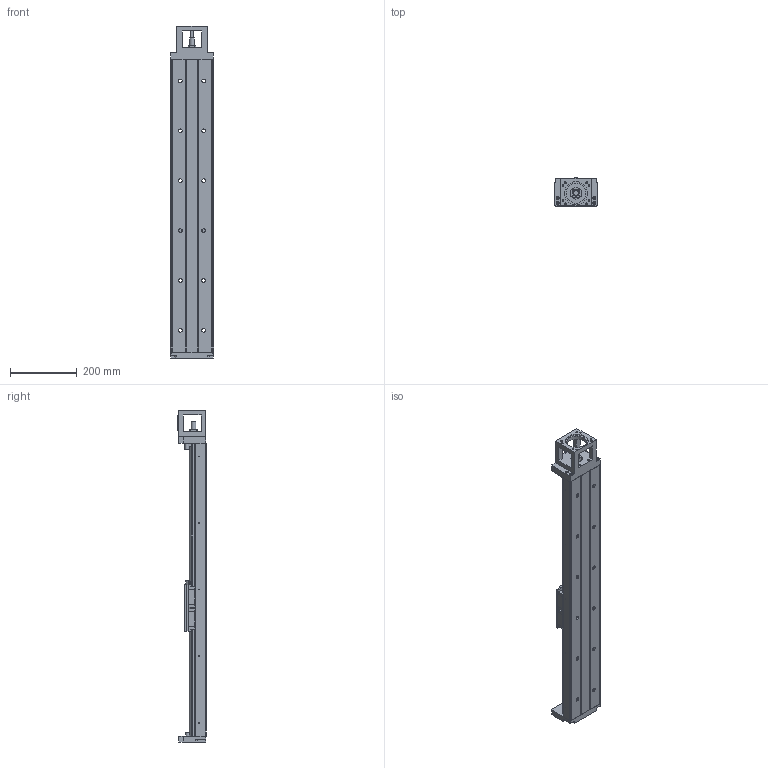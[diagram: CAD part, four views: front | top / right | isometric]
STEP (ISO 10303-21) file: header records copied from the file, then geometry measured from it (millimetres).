
FILE_DESCRIPTION(/* description */ (''),/* implementation_level */ '2;1');
FILE_NAME(/* name */ 'TKK130-880A1F0.stp',/* time_stamp */ '2016-12-22T10:41:17+08:00',/* author */ (''),/* organization */ (''),/* preprocessor_version */ 'ST-DEVELOPER v15',/* originating_system */ 'SIEMENS PLM Software NX 8.5',/* authorisation */ '');
FILE_SCHEMA (('AUTOMOTIVE_DESIGN { 1 0 10303 214 3 1 1 1 }'));
Length unit declared in the file: millimetre
Products named in the file (3): 02; 01; TKK130-880A1F0
Assembly tree (2 placements, depth 2):
  TKK130-880A1F0
    01
    02
Bounding box: 130 x 85 x 998 mm (x, y, z)
Volume: 3935908.6 mm3; surface area: 649101.5 mm2
Topology: 2 solids, 4 shells, 865 faces, 2359 edges, 1541 vertices
Faces by surface type: plane 510, cylinder 236, cone 79, extrusion 33, bspline 6, torus 1
Full cylindrical faces by diameter (mm): 2.1 x10, 2.5 x4, 3.3 x22, 4.5 x16, 5 x23, 6.6 x10, 6.8 x8, 7 x2, 8 x8, 8.5 x4, 9 x8, 11 x16, 12 x4, 15 x1, 16.3 x1, 17 x14, 25 x1, 35 x2, 40 x3, 60.03 x1, 70.03 x1
Entity records: 26997 total; most frequent: CARTESIAN_POINT 6019, DIRECTION 3990, ORIENTED_EDGE 3882, EDGE_CURVE 1941, VERTEX_POINT 1416, AXIS2_PLACEMENT_3D 1371, VECTOR 1248, EDGE_LOOP 1225
